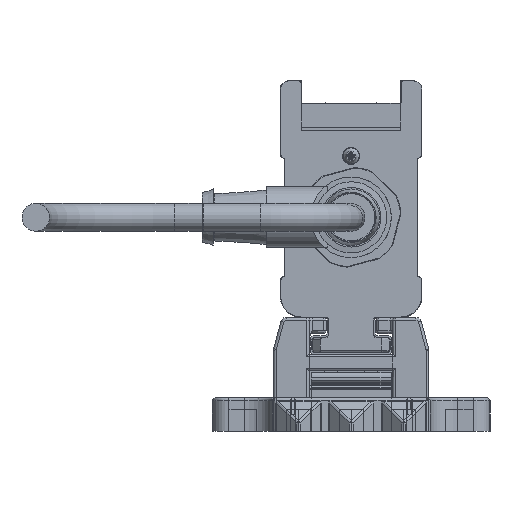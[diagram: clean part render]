
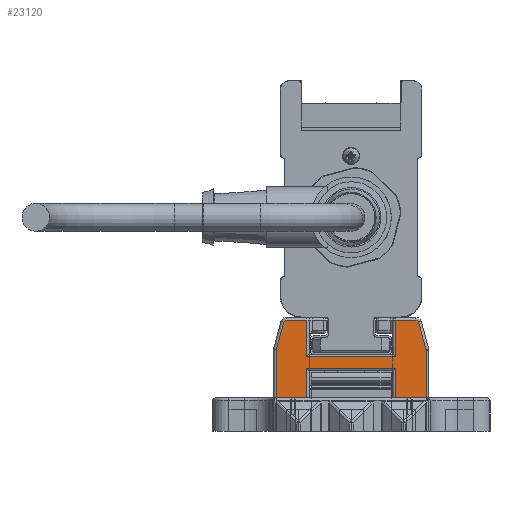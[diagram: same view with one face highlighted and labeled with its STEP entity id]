
A CAD part, left-side view. The second image highlights one B-rep face of the part: STEP entity #23120.
In plain terms, the highlighted planar face has unit normal (-1, 0, 0).
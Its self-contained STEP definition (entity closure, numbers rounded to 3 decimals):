
#23120=ADVANCED_FACE('', (#23130), #23140, .T.);
#117610=AXIS2_PLACEMENT_3D('Ax2Pl3d', #117620, #117630, #117640);
#117850=AXIS2_PLACEMENT_3D('Ax2Pl3d', #117860, #117870, #117880);
#122730=AXIS2_PLACEMENT_3D('Ax2Pl3d', #122740, #122750, #122760);
#127810=AXIS2_PLACEMENT_3D('Ax2Pl3d', #127820, #127830, #127840);
#137490=AXIS2_PLACEMENT_3D('Ax2Pl3d', #137500, #137510, #137520);
#453240=CARTESIAN_POINT('', (-747.669,-2326.345,331.37)
);
#117620=CARTESIAN_POINT('HicPkt', (-747.669,-2325.379,
331.111));
#453250=CARTESIAN_POINT('', (-747.669,-2326.379,
331.111));
#453260=CARTESIAN_POINT('', (-747.669,-2325.037,
336.255));
#453280=CARTESIAN_POINT('', (-747.669,-2325.037,
336.255));
#453310=CARTESIAN_POINT('', (-747.669,-2324.554,
336.625));
#117860=CARTESIAN_POINT('HicPkt', (-747.669,-2324.554,
336.125));
#453530=CARTESIAN_POINT('', (-747.669,-2326.379,
322.625));
#453540=CARTESIAN_POINT('', (-747.669,-2320.881,
322.625));
#453550=CARTESIAN_POINT('', (-747.669,-2320.881,
322.625));
#453630=CARTESIAN_POINT('', (-747.669,-2304.881,
322.625));
#453640=CARTESIAN_POINT('', (-747.669,-2299.383,
322.625));
#453650=CARTESIAN_POINT('', (-747.669,-2299.383,
322.625));
#122740=CARTESIAN_POINT('HicPkt', (-747.669,-2301.209,
336.125));
#456120=CARTESIAN_POINT('', (-747.669,-2300.726,
336.255));
#456130=CARTESIAN_POINT('', (-747.669,-2301.209,
336.625));
#456140=CARTESIAN_POINT('', (-747.669,-2320.881,
330.025));
#456150=CARTESIAN_POINT('', (-747.669,-2304.881,
330.025));
#456160=CARTESIAN_POINT('', (-747.669,-2320.881,
330.025));
#456320=CARTESIAN_POINT('', (-747.669,-2320.881,
328.005));
#456330=CARTESIAN_POINT('', (-747.669,-2304.881,
328.005));
#456340=CARTESIAN_POINT('', (-747.669,-2304.881,
328.005));
#456350=CARTESIAN_POINT('', (-747.669,-2320.881,
328.005));
#456370=CARTESIAN_POINT('', (-747.669,-2304.881,
322.625));
#456380=CARTESIAN_POINT('', (-747.669,-2304.881,
330.025));
#456390=CARTESIAN_POINT('', (-747.669,-2304.881,
336.625));
#457240=CARTESIAN_POINT('', (-747.669,-2304.881,
336.625));
#457250=CARTESIAN_POINT('', (-747.669,-2300.726,
336.255));
#457260=CARTESIAN_POINT('', (-747.669,-2299.417,
331.37));
#457450=CARTESIAN_POINT('', (-747.669,-2299.383,
331.111));
#457460=CARTESIAN_POINT('', (-747.669,-2299.383,
331.111));
#127820=CARTESIAN_POINT('HicPkt', (-747.669,-2300.383,
331.111));
#458270=CARTESIAN_POINT('', (-747.669,-2326.379,
331.111));
#137500=CARTESIAN_POINT('HicPkt', (-747.669,-2324.554,
336.625));
#460070=CARTESIAN_POINT('', (-747.669,-2320.881,
336.625));
#460080=CARTESIAN_POINT('', (-747.669,-2320.881,
336.625));
#460090=CARTESIAN_POINT('', (-747.669,-2320.881,
336.625));
#522140=CIRCLE('Circle', #117610, 1.);
#522180=CIRCLE('Circle', #117850, 0.5);
#522760=CIRCLE('Circle', #122730, 0.5);
#523290=CIRCLE('Circle', #127810, 1.);
#117630=DIRECTION('Axis', (-1.,0.,
0.));
#117640=DIRECTION('RefDirection', (0.,
0.,-1.));
#730180=DIRECTION('', (0.,0.259,
0.966));
#117870=DIRECTION('Axis', (-1.,0.,
0.));
#117880=DIRECTION('RefDirection', (0.,
0.,-1.));
#730290=DIRECTION('', (0.,1.,0.));
#730330=DIRECTION('', (0.,1.,0.));
#122750=DIRECTION('Axis', (1.,0.,
0.));
#122760=DIRECTION('RefDirection', (0.,
0.,-1.));
#731520=DIRECTION('', (0.,-1.,0.));
#731620=DIRECTION('', (0.,1.,0.));
#731630=DIRECTION('', (0.,0.,1.));
#731650=DIRECTION('', (0.,0.,-1.));
#731660=DIRECTION('', (0.,0.,-1.));
#732090=DIRECTION('', (0.,-1.,0.));
#732100=DIRECTION('', (0.,-0.259,0.966));
#732190=DIRECTION('', (0.,0.,1.));
#127830=DIRECTION('Axis', (1.,0.,
0.));
#127840=DIRECTION('RefDirection', (0.,
0.,-1.));
#732560=DIRECTION('', (0.,0.,1.));
#137510=DIRECTION('Axis', (-1.,0.,
0.));
#137520=DIRECTION('RefDirection', (0.,
0.,-1.));
#733400=DIRECTION('', (0.,1.,0.));
#733410=DIRECTION('', (0.,0.,1.));
#785930=EDGE_CURVE('', #785940, #785920, #522140, .T.);
#785990=EDGE_CURVE('', #785920, #785970, #786000, .T.);
#786060=EDGE_CURVE('', #785970, #786050, #522180, .T.);
#786510=EDGE_CURVE('', #786500, #786520, #786530, .T.);
#786670=EDGE_CURVE('', #786660, #786680, #786690, .T.);
#791030=EDGE_CURVE('', #791040, #791050, #522760, .T.);
#791080=EDGE_CURVE('', #791090, #791100, #791110, .T.);
#791450=EDGE_CURVE('', #791430, #791460, #791470, .T.);
#791500=EDGE_CURVE('', #786520, #791430, #791510, .T.);
#791540=EDGE_CURVE('', #791460, #786660, #791550, .T.);
#791560=EDGE_CURVE('', #791570, #791090, #791580, .T.);
#793400=EDGE_CURVE('', #791050, #791570, #793410, .T.);
#793470=EDGE_CURVE('', #793480, #791040, #793490, .T.);
#793910=EDGE_CURVE('', #786680, #793920, #793930, .T.);
#793950=EDGE_CURVE('', #793920, #793480, #523290, .T.);
#795660=EDGE_CURVE('', #786500, #785940, #795670, .T.);
#799470=EDGE_CURVE('', #786050, #799480, #799490, .T.);
#799500=EDGE_CURVE('', #791100, #799480, #799510, .T.);
#950330=EDGE_LOOP('Edge_loop', (#950340,#950350,#950360,#950370,#950380,
#950390,#950400,#950410,#950420,#950430,#950440,#950450,#950460,#950470,
#950480,#950490,#950500,#950510));
#23130=FACE_OUTER_BOUND('Face_outer_bound', #950330, .T.);
#786000=LINE('Line', #453280, #1078570);
#786530=LINE('Line', #453540, #1078680);
#786690=LINE('Line', #453640, #1078720);
#791110=LINE('Line', #456140, #1079910);
#791470=LINE('Line', #456330, #1080010);
#791510=LINE('Line', #456350, #1080020);
#791550=LINE('Line', #456370, #1080040);
#791580=LINE('Line', #456380, #1080050);
#793410=LINE('Line', #457240, #1080480);
#793490=LINE('Line', #457250, #1080490);
#793930=LINE('Line', #457450, #1080580);
#795670=LINE('Line', #458270, #1080950);
#799490=LINE('Line', #460070, #1081790);
#799510=LINE('Line', #460090, #1081800);
#950340=ORIENTED_EDGE('', *, *, #799470, .T.);
#950350=ORIENTED_EDGE('', *, *, #799500, .F.);
#950360=ORIENTED_EDGE('', *, *, #791080, .F.);
#950370=ORIENTED_EDGE('', *, *, #791560, .F.);
#950380=ORIENTED_EDGE('', *, *, #793400, .F.);
#950390=ORIENTED_EDGE('', *, *, #791030, .F.);
#950400=ORIENTED_EDGE('', *, *, #793470, .F.);
#950410=ORIENTED_EDGE('', *, *, #793950, .F.);
#950420=ORIENTED_EDGE('', *, *, #793910, .F.);
#950430=ORIENTED_EDGE('', *, *, #786670, .F.);
#950440=ORIENTED_EDGE('', *, *, #791540, .F.);
#950450=ORIENTED_EDGE('', *, *, #791450, .F.);
#950460=ORIENTED_EDGE('', *, *, #791500, .F.);
#950470=ORIENTED_EDGE('', *, *, #786510, .F.);
#950480=ORIENTED_EDGE('', *, *, #795660, .T.);
#950490=ORIENTED_EDGE('', *, *, #785930, .T.);
#950500=ORIENTED_EDGE('', *, *, #785990, .T.);
#950510=ORIENTED_EDGE('', *, *, #786060, .T.);
#23140=PLANE('Plane', #137490);
#1078570=VECTOR('', #730180, 5.057);
#1078680=VECTOR('', #730290, 5.498);
#1078720=VECTOR('', #730330, 5.498);
#1079910=VECTOR('', #731520, 16.);
#1080010=VECTOR('', #731620, 16.);
#1080020=VECTOR('', #731630, 5.38);
#1080040=VECTOR('', #731650, 5.38);
#1080050=VECTOR('', #731660, 6.6);
#1080480=VECTOR('', #732090, 3.672);
#1080490=VECTOR('', #732100, 5.057);
#1080580=VECTOR('', #732190, 8.486);
#1080950=VECTOR('', #732560, 8.486);
#1081790=VECTOR('', #733400, 3.672);
#1081800=VECTOR('', #733410, 6.6);
#785920=VERTEX_POINT('', #453240);
#785940=VERTEX_POINT('', #453250);
#785970=VERTEX_POINT('', #453260);
#786050=VERTEX_POINT('', #453310);
#786500=VERTEX_POINT('', #453530);
#786520=VERTEX_POINT('', #453550);
#786660=VERTEX_POINT('', #453630);
#786680=VERTEX_POINT('', #453650);
#791040=VERTEX_POINT('', #456120);
#791050=VERTEX_POINT('', #456130);
#791090=VERTEX_POINT('', #456150);
#791100=VERTEX_POINT('', #456160);
#791430=VERTEX_POINT('', #456320);
#791460=VERTEX_POINT('', #456340);
#791570=VERTEX_POINT('', #456390);
#793480=VERTEX_POINT('', #457260);
#793920=VERTEX_POINT('', #457460);
#799480=VERTEX_POINT('', #460080);
